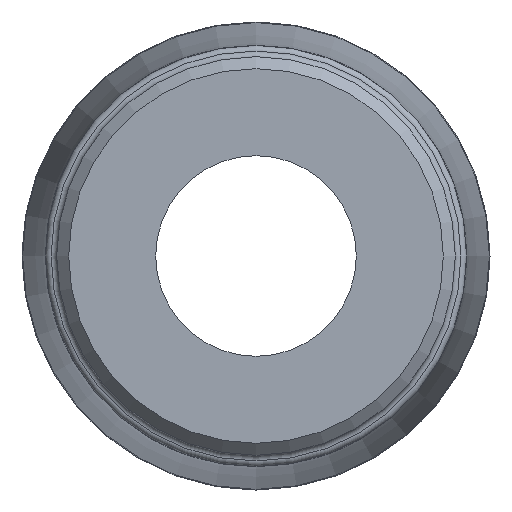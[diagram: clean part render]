
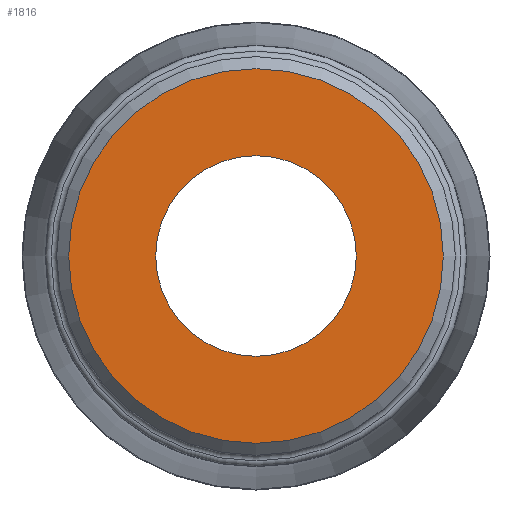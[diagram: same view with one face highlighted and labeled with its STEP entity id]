
A CAD part, left-side view. The second image highlights one B-rep face of the part: STEP entity #1816.
In plain terms, the highlighted planar face has unit normal (-1, 0, 0).
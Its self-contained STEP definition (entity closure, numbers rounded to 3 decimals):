
#193=FACE_BOUND('',#400,.T.);
#206=PLANE('',#2008);
#288=FACE_OUTER_BOUND('',#399,.T.);
#399=EDGE_LOOP('',(#1414));
#400=EDGE_LOOP('',(#1415,#1416));
#723=CIRCLE('',#2005,28.019);
#725=CIRCLE('',#2009,15.);
#726=CIRCLE('',#2010,15.);
#858=VERTEX_POINT('',#3173);
#860=VERTEX_POINT('',#3181);
#861=VERTEX_POINT('',#3182);
#1061=EDGE_CURVE('',#858,#858,#723,.T.);
#1064=EDGE_CURVE('',#860,#861,#725,.T.);
#1065=EDGE_CURVE('',#861,#860,#726,.T.);
#1414=ORIENTED_EDGE('',*,*,#1061,.F.);
#1415=ORIENTED_EDGE('',*,*,#1064,.T.);
#1416=ORIENTED_EDGE('',*,*,#1065,.T.);
#1816=ADVANCED_FACE('',(#288,#193),#206,.T.);
#2005=AXIS2_PLACEMENT_3D('',#3175,#2352,#2353);
#2008=AXIS2_PLACEMENT_3D('',#3180,#2359,#2360);
#2009=AXIS2_PLACEMENT_3D('',#3183,#2361,#2362);
#2010=AXIS2_PLACEMENT_3D('',#3184,#2363,#2364);
#2352=DIRECTION('center_axis',(1.,0.,0.));
#2353=DIRECTION('ref_axis',(0.,-1.,0.));
#2359=DIRECTION('center_axis',(-1.,0.,0.));
#2360=DIRECTION('ref_axis',(0.,0.,1.));
#2361=DIRECTION('center_axis',(1.,0.,0.));
#2362=DIRECTION('ref_axis',(0.,0.,-1.));
#2363=DIRECTION('center_axis',(1.,0.,0.));
#2364=DIRECTION('ref_axis',(0.,0.,-1.));
#3173=CARTESIAN_POINT('',(0.,28.019,0.));
#3175=CARTESIAN_POINT('Origin',(0.,0.,0.));
#3180=CARTESIAN_POINT('Origin',(0.,29.807,0.));
#3181=CARTESIAN_POINT('',(0.,15.,0.));
#3182=CARTESIAN_POINT('',(0.,-15.,0.));
#3183=CARTESIAN_POINT('Origin',(0.,0.,0.));
#3184=CARTESIAN_POINT('Origin',(0.,0.,0.));
